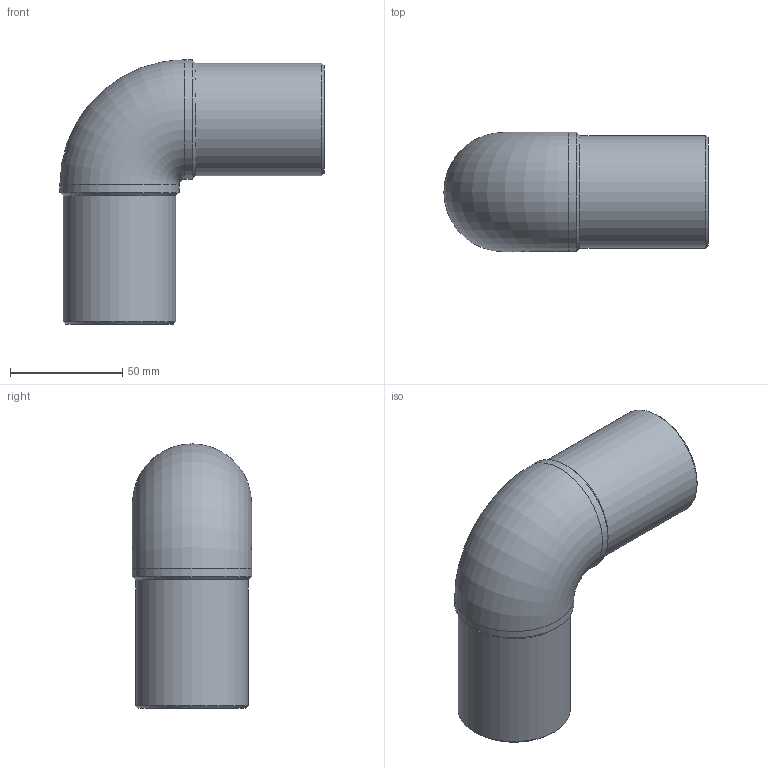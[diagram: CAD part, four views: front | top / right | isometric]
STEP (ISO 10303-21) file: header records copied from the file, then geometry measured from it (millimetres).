
FILE_DESCRIPTION(/* description */ ('Unknown'),/* implementation_level */ '2;1');
FILE_NAME(/* name */ 'G9P050C',/* time_stamp */ '2021-11-15T11:10:38+01:00',/* author */ ('Unknown'),/* organization */ ('Unknown'),/* preprocessor_version */ 'ST-DEVELOPER v16.7',/* originating_system */ 'Solid Edge',/* authorisation */ 'Unknown');
FILE_SCHEMA (('AUTOMOTIVE_DESIGN {1 0 10303 214 3 1 1}'));
Length unit declared in the file: millimetre
Products named in the file (1): G9P050C
Bounding box: 117.5 x 53 x 117.5 mm (x, y, z)
Volume: 125825.4 mm3; surface area: 50280.1 mm2
Topology: 1 solids, 1 shells, 14 faces, 34 edges, 22 vertices
Faces by surface type: cylinder 6, cone 4, plane 2, torus 2
Full cylindrical faces by diameter (mm): 40.8 x2, 50 x2, 53 x2
Entity records: 370 total; most frequent: CARTESIAN_POINT 70, DIRECTION 60, ORIENTED_EDGE 38, AXIS2_PLACEMENT_3D 30, EDGE_LOOP 27, FACE_BOUND 27, EDGE_CURVE 19, VERTEX_POINT 18
